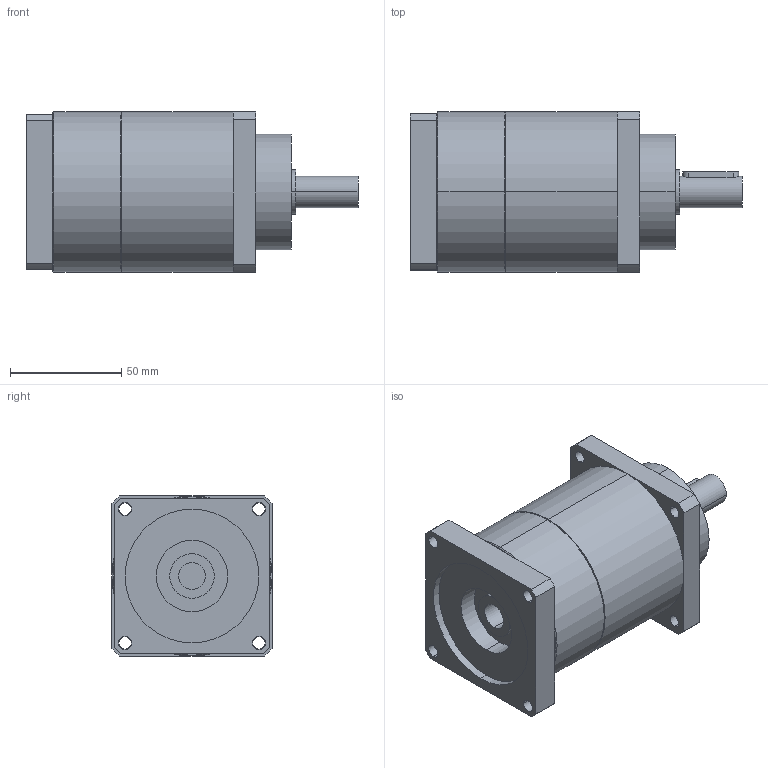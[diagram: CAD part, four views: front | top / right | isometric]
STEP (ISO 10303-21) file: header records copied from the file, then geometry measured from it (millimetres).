
FILE_DESCRIPTION(('CoCreate Modeling STEP Export'),'2;1');
FILE_NAME('GPT75_ig-9-12-16-20-25-28-35-40-50-70-100_14_B5T_12_P30.stp','2014-08-27T13:37:28',(''),(''),'CoCreate Modeling STEP processor for AP214 (Solid Model)','CoCreate Modeling 16.00C 25-Feb-2009 (C) Parametric Technology GmbH','');
FILE_SCHEMA(('AUTOMOTIVE_DESIGN { 1 0 10303 214 1 1 1 1 }'));
Length unit declared in the file: millimetre
Products named in the file (2): GPT75_ig-9-12-16-20-25-28-35-40-50-70-100_14_B5T_12_P30
Assembly tree (1 placements, depth 2):
  GPT75_ig-9-12-16-20-25-28-35-40-50-70-100_14_B5T_12_P30
    GPT75_ig-9-12-16-20-25-28-35-40-50-70-100_14_B5T_12_P30
Bounding box: 149 x 72 x 72 mm (x, y, z)
Volume: 457413.5 mm3; surface area: 45087 mm2
Topology: 1 solids, 1 shells, 84 faces, 210 edges, 137 vertices
Faces by surface type: cylinder 46, plane 34, cone 4
Entity records: 2588 total; most frequent: CARTESIAN_POINT 732, ORIENTED_EDGE 420, DIRECTION 326, EDGE_CURVE 210, VERTEX_POINT 137, AXIS2_PLACEMENT_3D 119, EDGE_LOOP 109, VECTOR 88
